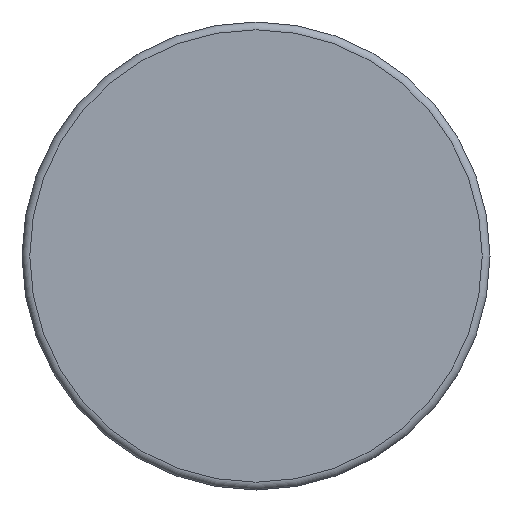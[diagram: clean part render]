
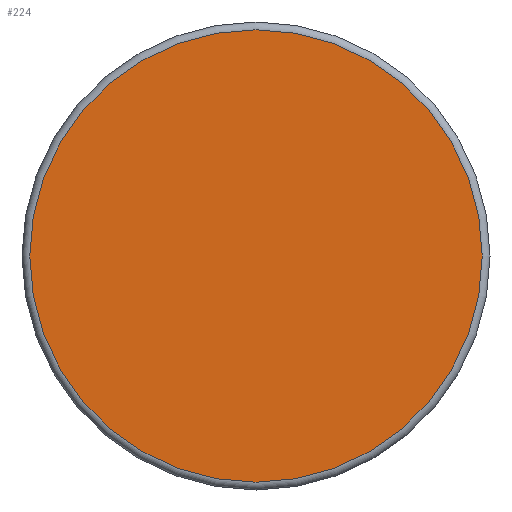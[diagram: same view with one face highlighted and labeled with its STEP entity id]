
A CAD part, front view. The second image highlights one B-rep face of the part: STEP entity #224.
In plain terms, the highlighted planar face has unit normal (0, -1, 0).
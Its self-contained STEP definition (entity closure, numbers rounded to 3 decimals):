
#224 = ADVANCED_FACE( '', ( #431 ), #432, .F. );
#431 = FACE_OUTER_BOUND( '', #627, .T. );
#432 = PLANE( '', #628 );
#627 = EDGE_LOOP( '', ( #994 ) );
#628 = AXIS2_PLACEMENT_3D( '', #995, #996, #997 );
#994 = ORIENTED_EDGE( '', *, *, #1111, .T. );
#995 = CARTESIAN_POINT( '', ( 29., 0., 0. ) );
#996 = DIRECTION( '', ( 0., 1., 0. ) );
#997 = DIRECTION( '', ( 0., 0., 1. ) );
#1111 = EDGE_CURVE( '', #1281, #1281, #1282, .T. );
#1281 = VERTEX_POINT( '', #1542 );
#1282 = CIRCLE( '', #1543, 29. );
#1542 = CARTESIAN_POINT( '', ( 0., 0., -29. ) );
#1543 = AXIS2_PLACEMENT_3D( '', #2029, #2030, #2031 );
#2029 = CARTESIAN_POINT( '', ( 0., 0., 0. ) );
#2030 = DIRECTION( '', ( 0., -1., 0. ) );
#2031 = DIRECTION( '', ( 0., 0., -1. ) );
